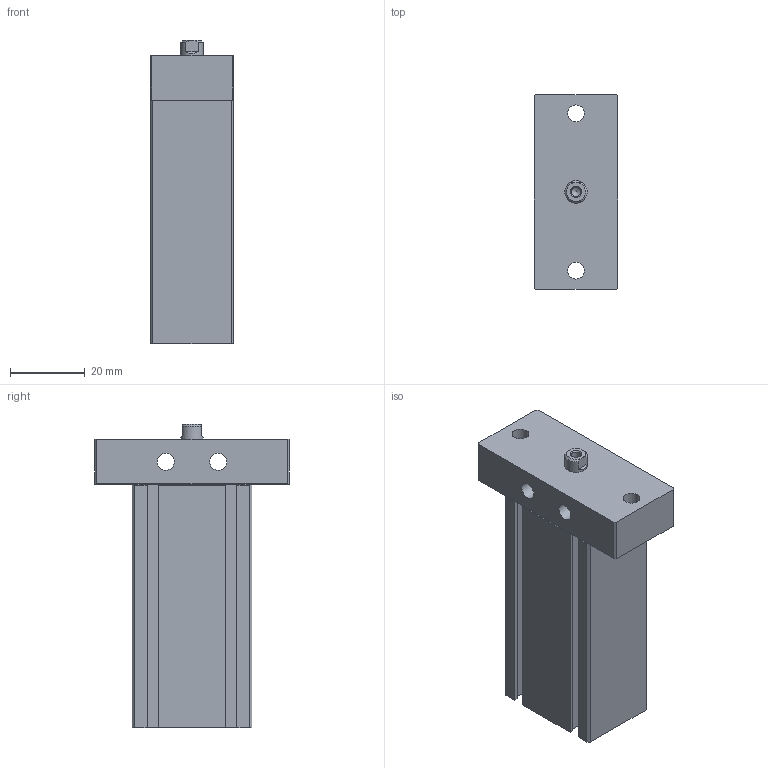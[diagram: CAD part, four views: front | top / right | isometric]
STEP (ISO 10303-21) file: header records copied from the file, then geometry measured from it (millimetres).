
FILE_DESCRIPTION((''),'2;1');
FILE_NAME('J:\3D電子目錄\氣缸\ND\ND\ND-F\ND16x40-F.stp','2008-03-12T13:54:34',('66-2f-008'),(''),'Autodesk Inventor 11','Autodesk Inventor 11','');
FILE_SCHEMA(('AUTOMOTIVE_DESIGN { 1 0 10303 214 1 1 1 1 }'));
Length unit declared in the file: millimetre
Products named in the file (1): ND16-F
Bounding box: 22.4 x 52 x 81 mm (x, y, z)
Volume: 52519 mm3; surface area: 16253.6 mm2
Topology: 2 solids, 2 shells, 110 faces, 268 edges, 171 vertices
Faces by surface type: plane 75, bspline 16, cone 10, cylinder 8, torus 1
Full cylindrical faces by diameter (mm): 1.5 x2, 4.5 x2, 6 x1, 10 x1, 18 x1, 19 x1
Entity records: 3158 total; most frequent: CARTESIAN_POINT 731, DIRECTION 466, ORIENTED_EDGE 464, EDGE_CURVE 232, VECTOR 180, LINE 180, VERTEX_POINT 164, EDGE_LOOP 156
